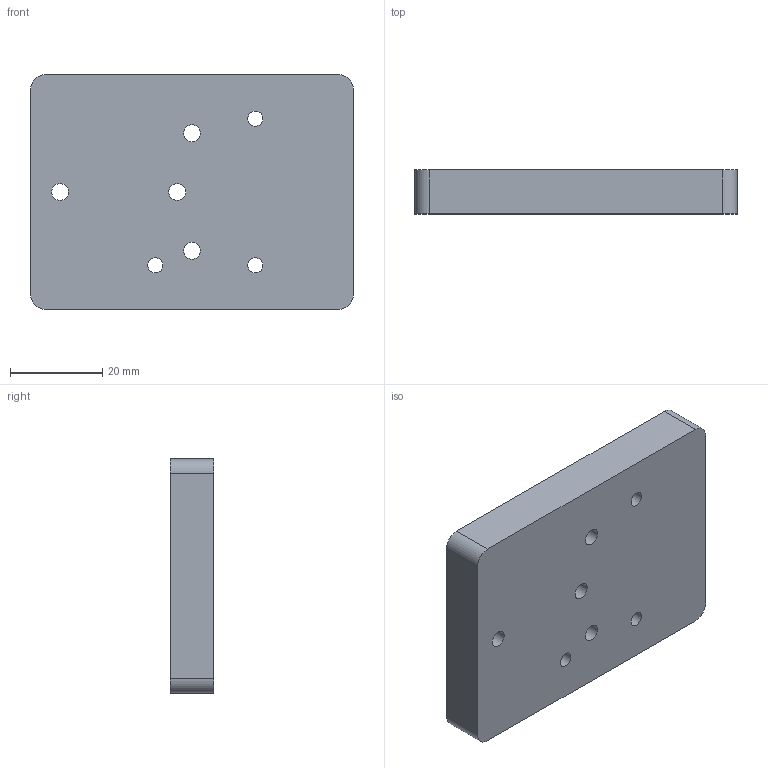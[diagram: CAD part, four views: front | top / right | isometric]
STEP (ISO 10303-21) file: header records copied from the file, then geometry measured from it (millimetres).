
FILE_DESCRIPTION( ( 'Unknown' ), '1' );
FILE_NAME( 'S:/A & P Tool/Start Button Swivel Mount/STP - IGES master files/AFSB-590XS-M-MINIHAWK.stp', 'Unknown', ( 'Unknown' ), ( 'Unknown' ), 'PSStep 16.0.42', 'Unknown', ' ' );
FILE_SCHEMA( ( 'AUTOMOTIVE_DESIGN { 1 0 10303 214 1 1 1 1 }' ) );
Length unit declared in the file: millimetre
Products named in the file (1): 1
Bounding box: 69.85 x 9.53 x 50.8 mm (x, y, z)
Volume: 32850.8 mm3; surface area: 10016.1 mm2
Topology: 1 solids, 1 shells, 23 faces, 58 edges, 40 vertices
Faces by surface type: cylinder 14, plane 9
Full cylindrical faces by diameter (mm): 3.251 x3, 3.68 x4, 6.35 x3
Entity records: 854 total; most frequent: DIRECTION 120, CARTESIAN_POINT 104, ORIENTED_EDGE 88, AXIS2_PLACEMENT_3D 52, EDGE_LOOP 50, EDGE_CURVE 44, VERTEX_POINT 36, FACE_OUTER_BOUND 33
